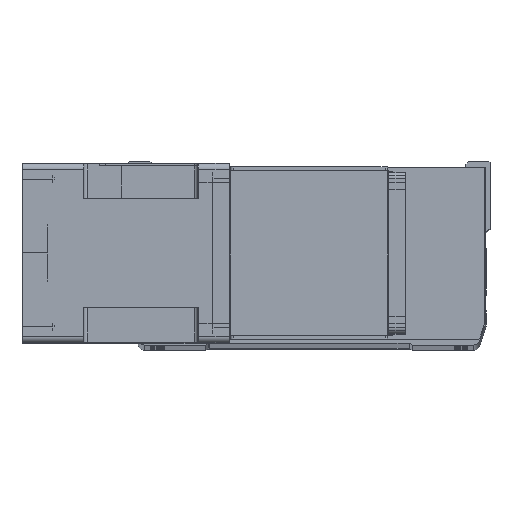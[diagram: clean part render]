
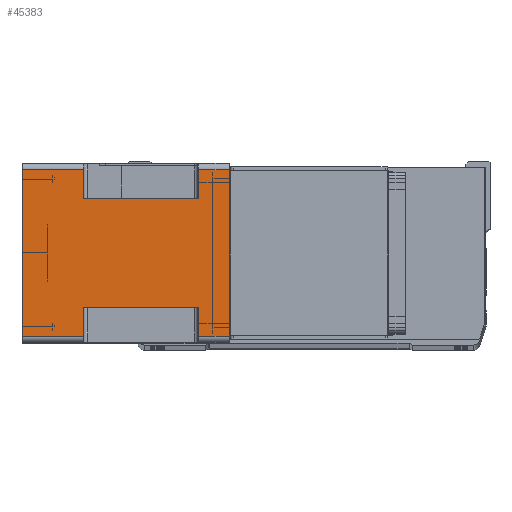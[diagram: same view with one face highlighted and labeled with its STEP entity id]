
A CAD part, top view. The second image highlights one B-rep face of the part: STEP entity #45383.
In plain terms, the highlighted planar face has unit normal (0, 0, 1) as drawn and (-1, 0, 0) by its records, which use the part's own axes.
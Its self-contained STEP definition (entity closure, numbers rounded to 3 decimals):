
#1099 = FACE_OUTER_BOUND ( 'NONE', #11831, .T. ) ;
#1237 = VERTEX_POINT ( 'NONE', #6642 ) ;
#1318 = DIRECTION ( 'NONE',  ( 0., -1., 0. ) ) ;
#1871 = ORIENTED_EDGE ( 'NONE', *, *, #7340, .T. ) ;
#2012 = VERTEX_POINT ( 'NONE', #36982 ) ;
#2129 = DIRECTION ( 'NONE',  ( 0., -1., 0. ) ) ;
#2583 = CARTESIAN_POINT ( 'NONE',  ( -71., -66., -164. ) ) ;
#2968 = LINE ( 'NONE', #14626, #4652 ) ;
#3191 = CARTESIAN_POINT ( 'NONE',  ( -71., -66., -164. ) ) ;
#3321 = EDGE_CURVE ( 'NONE', #1237, #10778, #2968, .T. ) ;
#3349 = VECTOR ( 'NONE', #37517, 1000. ) ;
#3681 = VERTEX_POINT ( 'NONE', #17105 ) ;
#3816 = CARTESIAN_POINT ( 'NONE',  ( -71., 66., -164. ) ) ;
#4202 = LINE ( 'NONE', #38094, #42732 ) ;
#4568 = CARTESIAN_POINT ( 'NONE',  ( -71., 66., 0. ) ) ;
#4652 = VECTOR ( 'NONE', #21921, 1000. ) ;
#4840 = ORIENTED_EDGE ( 'NONE', *, *, #3321, .F. ) ;
#4943 = VERTEX_POINT ( 'NONE', #9978 ) ;
#5567 = DIRECTION ( 'NONE',  ( 0., 0., 1. ) ) ;
#6642 = CARTESIAN_POINT ( 'NONE',  ( -71., -43., -24.5 ) ) ;
#7340 = EDGE_CURVE ( 'NONE', #3681, #44075, #23748, .T. ) ;
#7775 = VECTOR ( 'NONE', #37810, 1000. ) ;
#7878 = ORIENTED_EDGE ( 'NONE', *, *, #13027, .T. ) ;
#7909 = LINE ( 'NONE', #3816, #3349 ) ;
#8044 = VERTEX_POINT ( 'NONE', #4568 ) ;
#8663 = VECTOR ( 'NONE', #1318, 1000. ) ;
#9163 = ORIENTED_EDGE ( 'NONE', *, *, #36975, .T. ) ;
#9209 = VERTEX_POINT ( 'NONE', #34533 ) ;
#9685 = LINE ( 'NONE', #25231, #10258 ) ;
#9751 = ORIENTED_EDGE ( 'NONE', *, *, #26628, .T. ) ;
#9978 = CARTESIAN_POINT ( 'NONE',  ( -71., -66., 0. ) ) ;
#10184 = DIRECTION ( 'NONE',  ( -1., 0., 0. ) ) ;
#10258 = VECTOR ( 'NONE', #5567, 1000. ) ;
#10553 = CARTESIAN_POINT ( 'NONE',  ( -71., -66., -24.5 ) ) ;
#10778 = VERTEX_POINT ( 'NONE', #32014 ) ;
#10975 = VECTOR ( 'NONE', #20608, 1000. ) ;
#11831 = EDGE_LOOP ( 'NONE', ( #9163, #46120, #4840, #33992, #9751, #24909, #31388, #7878, #36161, #1871, #13324, #34109 ) ) ;
#13027 = EDGE_CURVE ( 'NONE', #36079, #26810, #4202, .T. ) ;
#13125 = VERTEX_POINT ( 'NONE', #17757 ) ;
#13324 = ORIENTED_EDGE ( 'NONE', *, *, #24311, .F. ) ;
#14626 = CARTESIAN_POINT ( 'NONE',  ( -71., -43., -164. ) ) ;
#16637 = CARTESIAN_POINT ( 'NONE',  ( -71., -43., -115.5 ) ) ;
#17105 = CARTESIAN_POINT ( 'NONE',  ( -71., 43., -115.5 ) ) ;
#17757 = CARTESIAN_POINT ( 'NONE',  ( -71., 66., -164. ) ) ;
#19040 = LINE ( 'NONE', #10553, #7775 ) ;
#19941 = VERTEX_POINT ( 'NONE', #26634 ) ;
#20608 = DIRECTION ( 'NONE',  ( 0., 0., 1. ) ) ;
#21419 = LINE ( 'NONE', #3191, #33932 ) ;
#21921 = DIRECTION ( 'NONE',  ( 0., 0., -1. ) ) ;
#22073 = CARTESIAN_POINT ( 'NONE',  ( -71., -66., 0. ) ) ;
#22111 = EDGE_CURVE ( 'NONE', #2012, #10778, #30231, .T. ) ;
#22535 = CARTESIAN_POINT ( 'NONE',  ( -71., -66., -115.5 ) ) ;
#22723 = AXIS2_PLACEMENT_3D ( 'NONE', #31912, #10184, #35556 ) ;
#22857 = EDGE_CURVE ( 'NONE', #13125, #19941, #39892, .T. ) ;
#23748 = LINE ( 'NONE', #22535, #40256 ) ;
#23967 = EDGE_CURVE ( 'NONE', #3681, #26810, #9685, .T. ) ;
#24311 = EDGE_CURVE ( 'NONE', #13125, #44075, #39720, .T. ) ;
#24909 = ORIENTED_EDGE ( 'NONE', *, *, #33105, .F. ) ;
#25231 = CARTESIAN_POINT ( 'NONE',  ( -71., 43., -164. ) ) ;
#26628 = EDGE_CURVE ( 'NONE', #9209, #4943, #38204, .T. ) ;
#26634 = CARTESIAN_POINT ( 'NONE',  ( -71., -66., -164. ) ) ;
#26810 = VERTEX_POINT ( 'NONE', #39189 ) ;
#27247 = VECTOR ( 'NONE', #41135, 1000. ) ;
#29568 = DIRECTION ( 'NONE',  ( 0., -1., 0. ) ) ;
#30014 = DIRECTION ( 'NONE',  ( 0., 1., 0. ) ) ;
#30231 = LINE ( 'NONE', #16637, #40979 ) ;
#30875 = EDGE_CURVE ( 'NONE', #36079, #8044, #7909, .T. ) ;
#31172 = CARTESIAN_POINT ( 'NONE',  ( -71., 66., -24.5 ) ) ;
#31388 = ORIENTED_EDGE ( 'NONE', *, *, #30875, .F. ) ;
#31912 = CARTESIAN_POINT ( 'NONE',  ( -71., -66., -164. ) ) ;
#32014 = CARTESIAN_POINT ( 'NONE',  ( -71., -43., -115.5 ) ) ;
#33105 = EDGE_CURVE ( 'NONE', #8044, #4943, #37959, .T. ) ;
#33808 = CARTESIAN_POINT ( 'NONE',  ( -71., -66., -164. ) ) ;
#33837 = CARTESIAN_POINT ( 'NONE',  ( -71., 66., -164. ) ) ;
#33932 = VECTOR ( 'NONE', #39481, 1000. ) ;
#33992 = ORIENTED_EDGE ( 'NONE', *, *, #37668, .T. ) ;
#34075 = DIRECTION ( 'NONE',  ( 0., 1., 0. ) ) ;
#34109 = ORIENTED_EDGE ( 'NONE', *, *, #22857, .T. ) ;
#34533 = CARTESIAN_POINT ( 'NONE',  ( -71., -66., -24.5 ) ) ;
#35556 = DIRECTION ( 'NONE',  ( 0., -1., 0. ) ) ;
#36079 = VERTEX_POINT ( 'NONE', #31172 ) ;
#36161 = ORIENTED_EDGE ( 'NONE', *, *, #23967, .F. ) ;
#36975 = EDGE_CURVE ( 'NONE', #19941, #2012, #21419, .T. ) ;
#36982 = CARTESIAN_POINT ( 'NONE',  ( -71., -66., -115.5 ) ) ;
#37517 = DIRECTION ( 'NONE',  ( 0., 0., 1. ) ) ;
#37668 = EDGE_CURVE ( 'NONE', #1237, #9209, #19040, .T. ) ;
#37810 = DIRECTION ( 'NONE',  ( 0., -1., 0. ) ) ;
#37959 = LINE ( 'NONE', #22073, #39658 ) ;
#38094 = CARTESIAN_POINT ( 'NONE',  ( -71., 43., -24.5 ) ) ;
#38204 = LINE ( 'NONE', #2583, #10975 ) ;
#39189 = CARTESIAN_POINT ( 'NONE',  ( -71., 43., -24.5 ) ) ;
#39481 = DIRECTION ( 'NONE',  ( 0., 0., 1. ) ) ;
#39658 = VECTOR ( 'NONE', #29568, 1000. ) ;
#39720 = LINE ( 'NONE', #33837, #27247 ) ;
#39892 = LINE ( 'NONE', #33808, #8663 ) ;
#40256 = VECTOR ( 'NONE', #30014, 1000. ) ;
#40979 = VECTOR ( 'NONE', #34075, 1000. ) ;
#41135 = DIRECTION ( 'NONE',  ( 0., 0., 1. ) ) ;
#42732 = VECTOR ( 'NONE', #2129, 1000. ) ;
#44075 = VERTEX_POINT ( 'NONE', #45610 ) ;
#45383 = ADVANCED_FACE ( 'NONE', ( #1099 ), #46283, .T. ) ;
#45610 = CARTESIAN_POINT ( 'NONE',  ( -71., 66., -115.5 ) ) ;
#46120 = ORIENTED_EDGE ( 'NONE', *, *, #22111, .T. ) ;
#46283 = PLANE ( 'NONE',  #22723 ) ;
